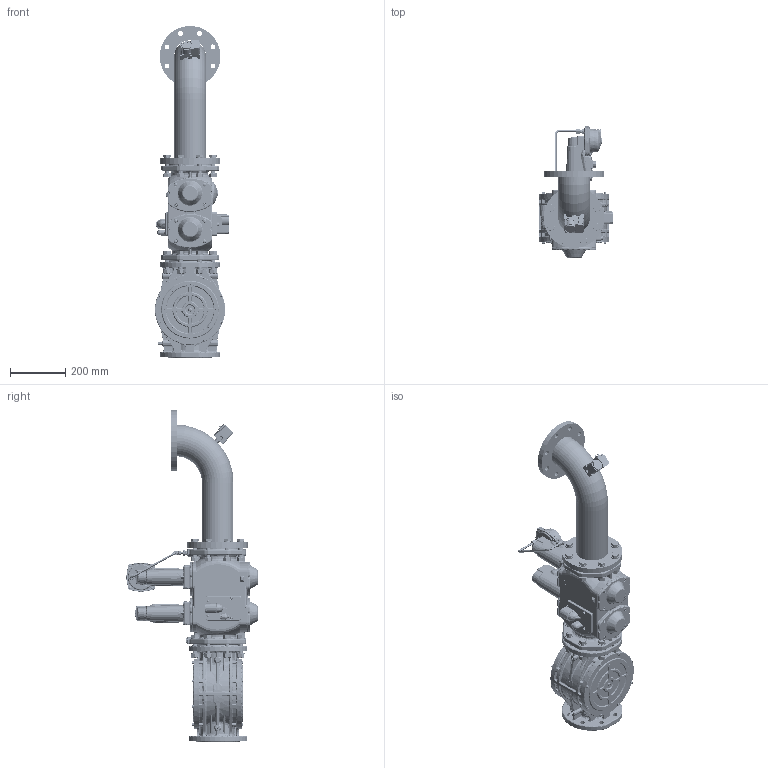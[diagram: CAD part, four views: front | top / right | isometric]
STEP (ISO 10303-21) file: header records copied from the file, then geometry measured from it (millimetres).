
FILE_DESCRIPTION (( 'STEP AP214' ), '1' );
FILE_NAME ('19990607.STEP', '2023-11-22T08:30:31', ( '' ), ( '' ), 'SwSTEP 2.0', 'SolidWorks 2021', '' );
FILE_SCHEMA (( 'AUTOMOTIVE_DESIGN' ));
Length unit declared in the file: millimetre
Products named in the file (20): hex nut style 1 gradeab_iso_Hexagon Nut ISO - 4032 - M16 - D - C; 0005150151-100568; 0005090231-01440; 57124-01494; 0005100121-108711; 0005040068-101251; 0024060019-105601; plain washer normal grade a_iso_Washer ISO 7089 - 16; hex screw gradeab_iso_ISO 4017 - M16 x 70-C; 0006020458-102338; 0015200004-102250; 19990607; 0005090191-102264; 0005150109-110206; 0005090232-01439; 0006020657-132475; 23135-101306; 0015010101-02957; 0005040038-03745; 23684-02955
Assembly tree (88 placements, depth 3):
  19990607
    0015200004-102250
      0015010101-02957
      23135-101306  x2
      23684-02955
    0005090191-102264
    0005090232-01439
    0005090231-01440
    0006020657-132475
    0006020458-102338
    0005150151-100568
    0005040068-101251
    0005040038-03745
    57124-01494  x8
    hex screw gradeab_iso_ISO 4017 - M16 x 70-C  x8
    hex nut style 1 gradeab_iso_Hexagon Nut ISO - 4032 - M16 - D - C  x24
    plain washer normal grade a_iso_Washer ISO 7089 - 16  x32
    0005100121-108711
    0024060019-105601
    0005150109-110206
Bounding box: 268 x 475.6 x 1201.4 mm (x, y, z)
Volume: 19064975.6 mm3; surface area: 2234459.8 mm2
Topology: 124 solids, 165 shells, 9330 faces, 22317 edges, 13580 vertices
Faces by surface type: plane 2804, cylinder 2739, bspline 2203, cone 968, torus 498, sphere 118
Full cylindrical faces by diameter (mm): 1.5 x2, 2 x2, 3 x1, 3.1 x1, 3.68 x1, 3.838 x3, 4 x5, 4.2 x17, 4.3 x15, 4.35 x2, 4.351 x6, 4.5 x1, 4.8 x1, 5 x43, 5.5 x20, 5.6 x4, 5.795 x8, 5.9 x1, 6 x10, 6.2 x1, 6.4 x4, 6.5 x18, 6.985 x16, 7 x4, 7.794 x16, 8 x19, 8.3 x16, 8.5 x5, 8.55 x1, 8.8 x1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
Entity records: 353927 total; most frequent: CARTESIAN_POINT 180037, ORIENTED_EDGE 37136, DIRECTION 31528, EDGE_CURVE 18568, AXIS2_PLACEMENT_3D 12361, VERTEX_POINT 11849, EDGE_LOOP 10121, FACE_OUTER_BOUND 9128
